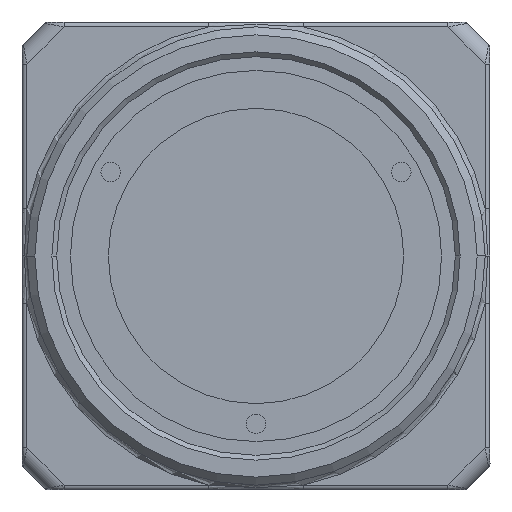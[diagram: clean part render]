
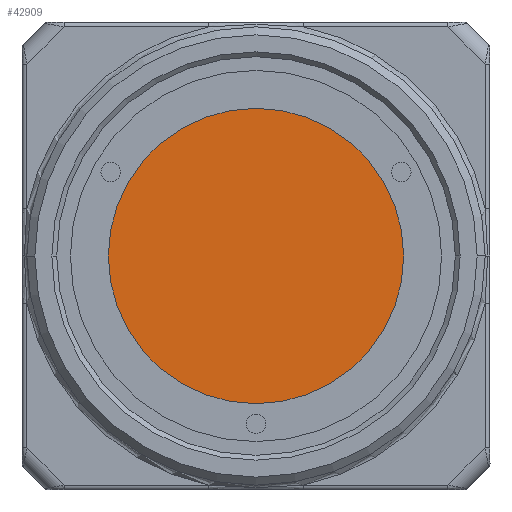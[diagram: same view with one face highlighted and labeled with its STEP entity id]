
A CAD part, left-side view. The second image highlights one B-rep face of the part: STEP entity #42909.
In plain terms, the highlighted planar face has unit normal (-1, 0, 0).
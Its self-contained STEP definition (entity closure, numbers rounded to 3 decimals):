
#11501=CARTESIAN_POINT('',(0.1,0.,0.));
#11502=DIRECTION('',(1.,0.,0.));
#11503=DIRECTION('',(0.,1.,0.));
#11504=AXIS2_PLACEMENT_3D('',#11501,#11502,#11503);
#11506=CARTESIAN_POINT('',(0.1,0.,0.));
#11507=DIRECTION('',(1.,0.,0.));
#11508=DIRECTION('',(0.,-1.,0.));
#11509=AXIS2_PLACEMENT_3D('',#11506,#11507,#11508);
#28785=CARTESIAN_POINT('',(0.1,9.15,0.));
#28786=CARTESIAN_POINT('',(0.1,-9.15,0.));
#28787=VERTEX_POINT('',#28785);
#28788=VERTEX_POINT('',#28786);
#42899=CARTESIAN_POINT('',(0.1,0.,0.));
#42900=DIRECTION('',(1.,0.,0.));
#42901=DIRECTION('',(0.,-1.,0.));
#42902=AXIS2_PLACEMENT_3D('',#42899,#42900,#42901);
#42903=PLANE('',#42902);
#42904=ORIENTED_EDGE('',*,*,#42889,.T.);
#42906=ORIENTED_EDGE('',*,*,#42905,.T.);
#42907=EDGE_LOOP('',(#42904,#42906));
#42908=FACE_OUTER_BOUND('',#42907,.F.);
#42909=ADVANCED_FACE('',(#42908),#42903,.F.);
#11505=CIRCLE('',#11504,9.15);
#11510=CIRCLE('',#11509,9.15);
#42889=EDGE_CURVE('',#28787,#28788,#11505,.T.);
#42905=EDGE_CURVE('',#28788,#28787,#11510,.T.);
